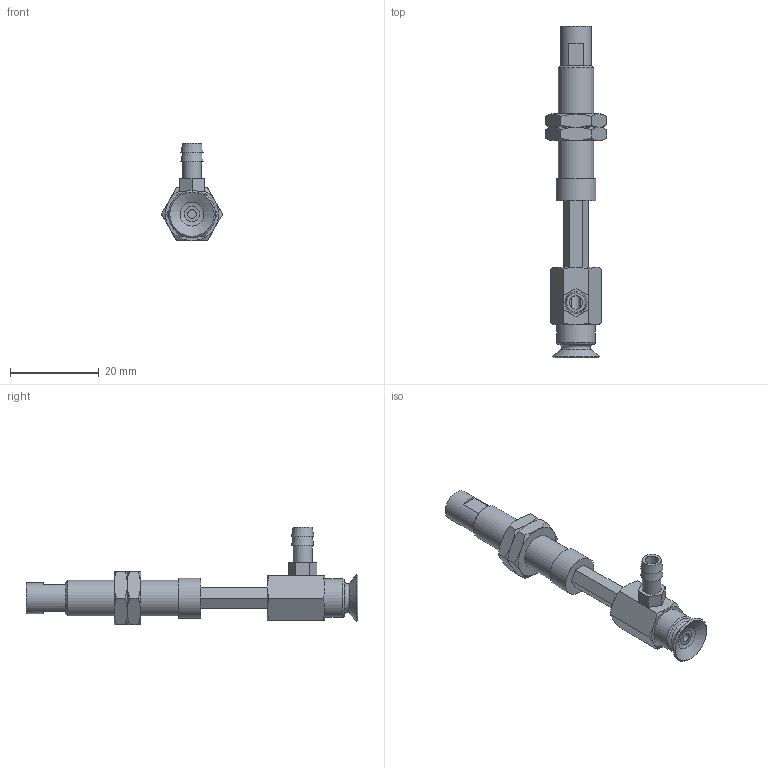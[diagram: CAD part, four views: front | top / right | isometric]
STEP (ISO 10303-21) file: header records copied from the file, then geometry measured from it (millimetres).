
FILE_DESCRIPTION(('STEP AP203'),'1');
FILE_NAME('-T.stp','2025-04-10T07:27:14',(' '),(' '),'Spatial InterOp 3D',' ',' ');
FILE_SCHEMA(('CONFIG_CONTROL_DESIGN'));
Length unit declared in the file: millimetre
Products named in the file (7): BNABPFYH-10A-15-※-T; CONNECTOR-H-10A-15; Nut-10A-15-h; NAPFTH-10A-15-FBODY; NAPFTH-10A-15-MBODY; BPFG-10A-※; T
Assembly tree (7 placements, depth 2):
  BNABPFYH-10A-15-※-T
    CONNECTOR-H-10A-15
    Nut-10A-15-h  x2
    NAPFTH-10A-15-FBODY
    NAPFTH-10A-15-MBODY
    BPFG-10A-※
    T
Bounding box: 13.86 x 75 x 22 mm (x, y, z)
Volume: 4105.4 mm3; surface area: 5252.4 mm2
Topology: 7 solids, 7 shells, 157 faces, 335 edges, 206 vertices
Faces by surface type: plane 76, cone 54, cylinder 18, torus 8, bspline 1
Full cylindrical faces by diameter (mm): 2 x2, 3 x1, 4 x2, 4.134 x2, 4.3 x1, 5 x2, 6 x2, 7 x1, 7.188 x2, 8 x1, 8.7 x1, 9 x1
Entity records: 3949 total; most frequent: CARTESIAN_POINT 925, DIRECTION 556, ORIENTED_EDGE 476, EDGE_CURVE 238, AXIS2_PLACEMENT_3D 231, EDGE_LOOP 200, VERTEX_POINT 170, FACE_OUTER_BOUND 160
